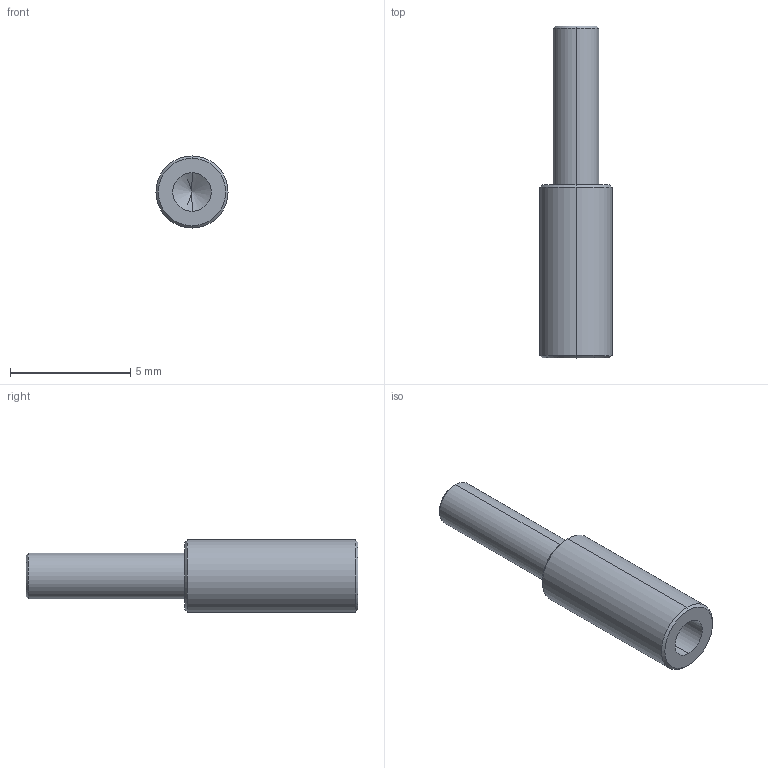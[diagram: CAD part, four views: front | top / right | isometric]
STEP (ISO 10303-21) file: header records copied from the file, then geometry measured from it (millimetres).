
FILE_DESCRIPTION (( 'STEP AP214' ), '1' );
FILE_NAME ('Extended Standoff (Height 13.8mm, M2).STEP', '2019-02-26T02:56:04', ( '' ), ( '' ), 'SwSTEP 2.0', 'SolidWorks 2018', '' );
FILE_SCHEMA (( 'AUTOMOTIVE_DESIGN' ));
Length unit declared in the file: millimetre
Products named in the file (1): Extended Standoff (Height 13.8mm, M2)
Bounding box: 3 x 13.8 x 3 mm (x, y, z)
Volume: 59.1 mm3; surface area: 145.4 mm2
Topology: 1 solids, 1 shells, 17 faces, 34 edges, 19 vertices
Faces by surface type: cone 8, cylinder 6, plane 3
Entity records: 462 total; most frequent: DIRECTION 86, CARTESIAN_POINT 69, ORIENTED_EDGE 64, AXIS2_PLACEMENT_3D 36, EDGE_CURVE 32, EDGE_LOOP 19, VERTEX_POINT 19, CIRCLE 18
